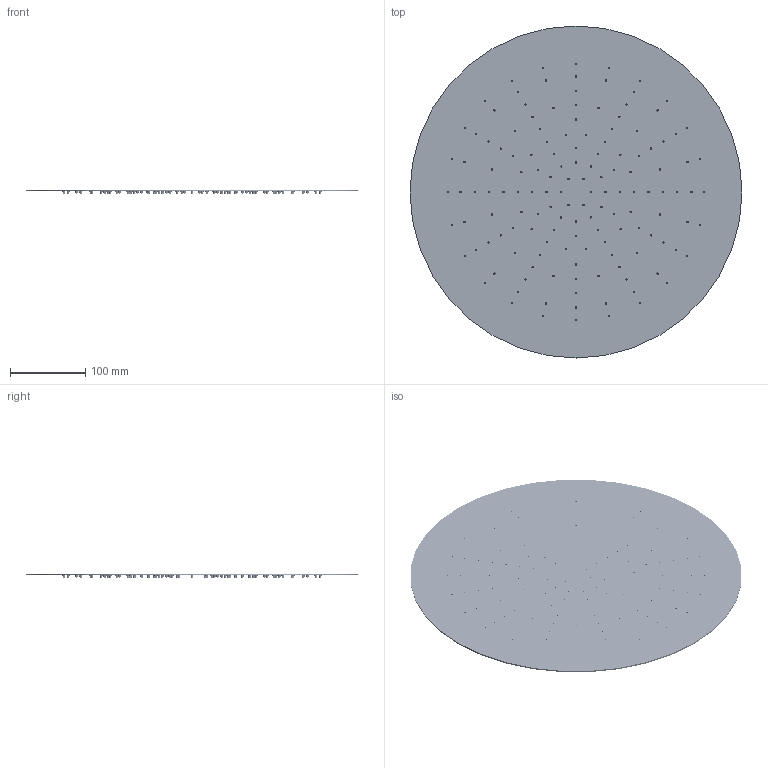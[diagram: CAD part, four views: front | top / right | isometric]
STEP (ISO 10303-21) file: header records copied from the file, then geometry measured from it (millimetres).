
FILE_DESCRIPTION((''),'2;1');
FILE_NAME('90919SW0001','2021-04-14T14:08:24',('carloff'),(''),'CREO PARAMETRIC BY PTC INC, 2018100','CREO PARAMETRIC BY PTC INC, 2018100','');
FILE_SCHEMA(('CONFIG_CONTROL_DESIGN'));
Products named in the file (1): 90919SW0001
Bounding box: 440 x 440 x 5.8 mm (x, y, z)
Volume: 306311.7 mm3; surface area: 314089.3 mm2
Topology: 1 solids, 1 shells, 3460 faces, 7206 edges, 4036 vertices
Faces by surface type: torus 2592, cylinder 578, plane 290
Entity records: 94020 total; most frequent: DIRECTION 20754, CARTESIAN_POINT 14702, ORIENTED_EDGE 14412, AXIS2_PLACEMENT_3D 10088, EDGE_CURVE 7206, CIRCLE 6628, VERTEX_POINT 4036, EDGE_LOOP 4036
